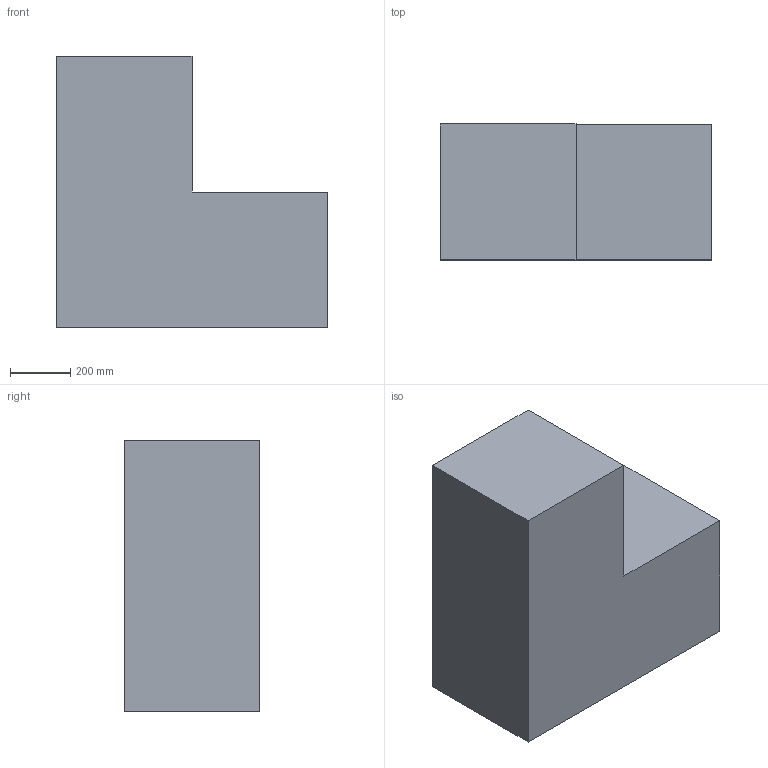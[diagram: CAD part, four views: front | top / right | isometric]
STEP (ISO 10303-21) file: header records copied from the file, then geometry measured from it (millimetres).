
FILE_DESCRIPTION (( 'STEP AP203' ), '1' );
FILE_NAME ('Extrabox Type C.STEP', '2019-01-15T13:50:55', ( '' ), ( '' ), 'SwSTEP 2.0', 'SolidWorks 2019', '' );
FILE_SCHEMA (( 'CONFIG_CONTROL_DESIGN' ));
Length unit declared in the file: millimetre
Products named in the file (1): Extrabox Type C
Bounding box: 900 x 450 x 900 mm (x, y, z)
Volume: 273375000 mm3; surface area: 2835000 mm2
Topology: 1 solids, 1 shells, 8 faces, 18 edges, 12 vertices
Faces by surface type: plane 8
Entity records: 299 total; most frequent: CARTESIAN_POINT 39, DIRECTION 36, ORIENTED_EDGE 36, LINE 18, VECTOR 18, EDGE_CURVE 18, VERTEX_POINT 12, AXIS2_PLACEMENT_3D 9
